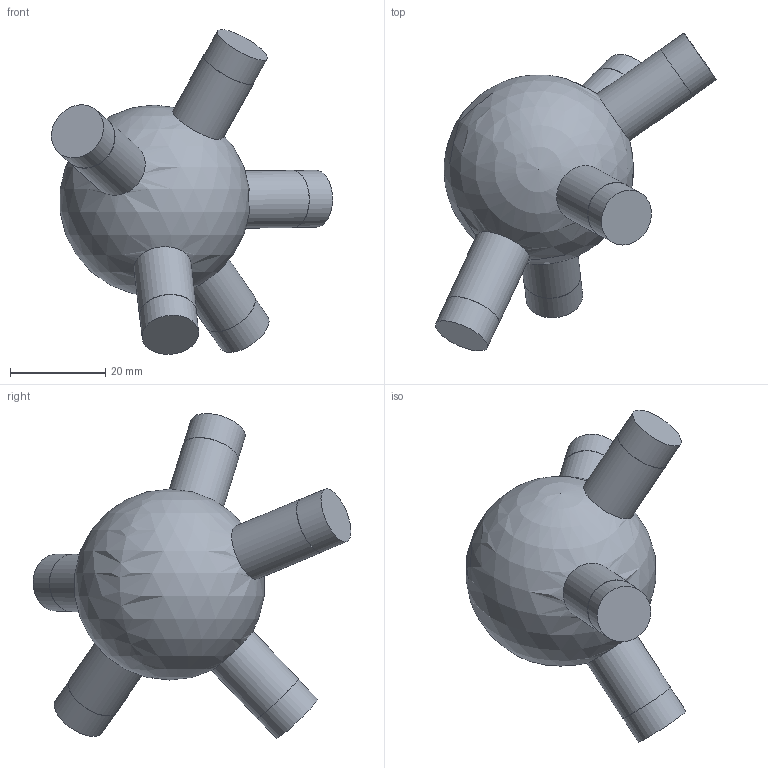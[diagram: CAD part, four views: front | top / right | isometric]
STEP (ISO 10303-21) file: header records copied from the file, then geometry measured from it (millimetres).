
FILE_DESCRIPTION(('Open CASCADE Model'),'2;1');
FILE_NAME('Open CASCADE Shape Model','2026-10-21T12:47:57',('Author'),( 'Open CASCADE'),'Open CASCADE STEP processor 7.9','Open CASCADE 7.9' ,'Unknown');
FILE_SCHEMA(('AUTOMOTIVE_DESIGN { 1 0 10303 214 1 1 1 1 }'));
Length unit declared in the file: millimetre
Products named in the file (1): Open CASCADE STEP translator 7.9 166
Bounding box: 58.92 x 66.63 x 68.06 mm (x, y, z)
Volume: 44862.9 mm3; surface area: 8894.3 mm2
Topology: 1 solids, 1 shells, 21 faces, 35 edges, 24 vertices
Faces by surface type: cylinder 10, plane 10, sphere 1
Full cylindrical faces by diameter (mm): 11.9 x5, 12 x5
Entity records: 1285 total; most frequent: CARTESIAN_POINT 491, DIRECTION 163, ORIENTED_EDGE 68, PCURVE 68, DEFINITIONAL_REPRESENTATION 68, LINE 56, VECTOR 56, AXIS2_PLACEMENT_3D 46
